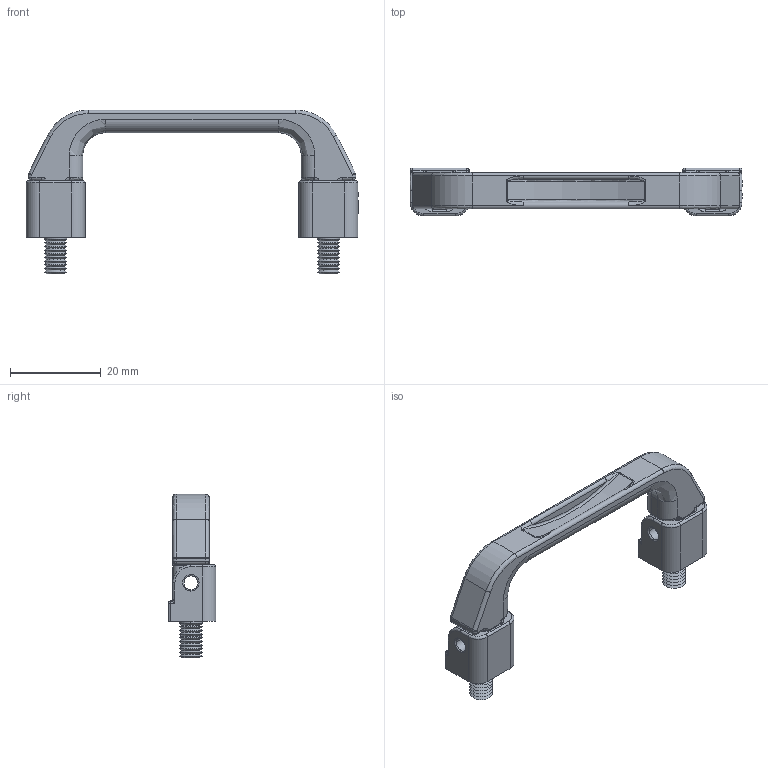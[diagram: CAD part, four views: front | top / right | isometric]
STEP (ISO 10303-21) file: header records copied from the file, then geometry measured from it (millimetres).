
FILE_DESCRIPTION (( 'STEP AP214' ), '1' );
FILE_NAME ('A80 KA-280-3.STEP', '2016-11-25T02:09:44', ( '' ), ( '' ), 'SwSTEP 2.0', 'SolidWorks 2011', '' );
FILE_SCHEMA (( 'AUTOMOTIVE_DESIGN' ));
Length unit declared in the file: millimetre
Products named in the file (1): A80 KA-280-3
Bounding box: 73 x 10.5 x 36 mm (x, y, z)
Volume: 6458 mm3; surface area: 5209.1 mm2
Topology: 3 solids, 3 shells, 374 faces, 890 edges, 500 vertices
Faces by surface type: cylinder 122, bspline 97, cone 80, plane 75
Entity records: 19303 total; most frequent: CARTESIAN_POINT 7158, ORIENTED_EDGE 1740, DIRECTION 1611, EDGE_CURVE 870, AXIS2_PLACEMENT_3D 616, VERTEX_POINT 500, EDGE_LOOP 392, LINE 379
